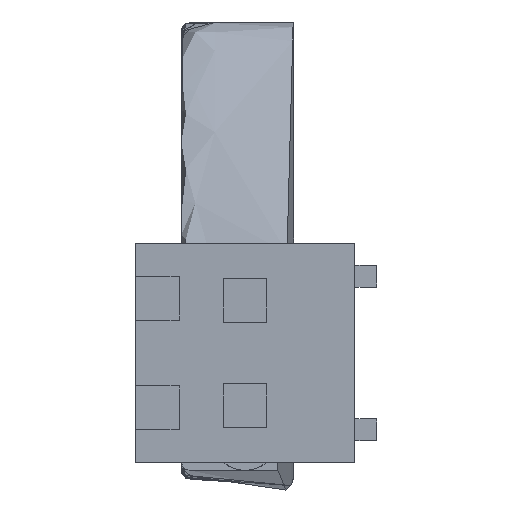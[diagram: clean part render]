
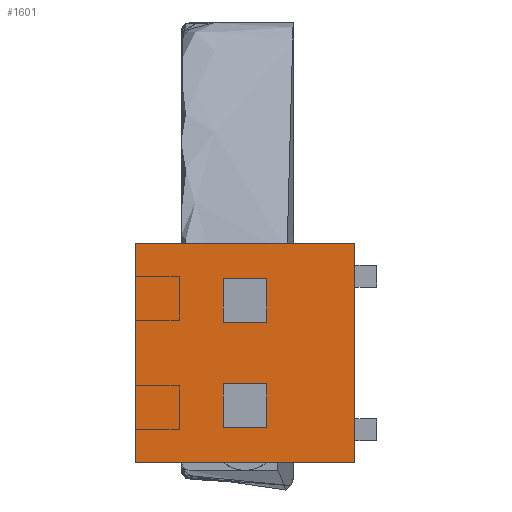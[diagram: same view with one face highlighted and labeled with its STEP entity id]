
A CAD part, left-side view. The second image highlights one B-rep face of the part: STEP entity #1601.
In plain terms, the highlighted planar face has unit normal (-1, 0, 0).
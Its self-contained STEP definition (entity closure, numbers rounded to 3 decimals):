
#485 = DIRECTION ( 'NONE',  ( 0., 0., -1. ) ) ;
#1033 = CARTESIAN_POINT ( 'NONE',  ( -1066., -1.8, -4.825 ) ) ;
#1272 = CARTESIAN_POINT ( 'NONE',  ( -1066., -1.8, -4.825 ) ) ;
#1372 = CARTESIAN_POINT ( 'NONE',  ( -1066., 0.2, -0.625 ) ) ;
#1531 = EDGE_CURVE ( 'NONE', #17127, #8118, #25463, .T. ) ;
#1601 = ADVANCED_FACE ( 'NONE', ( #33960, #8636, #22338 ), #30838, .F. ) ;
#2088 = VECTOR ( 'NONE', #31592, 1000. ) ;
#2146 = LINE ( 'NONE', #35978, #15717 ) ;
#3085 = CARTESIAN_POINT ( 'NONE',  ( -1066., 1.2, -1.625 ) ) ;
#3474 = VERTEX_POINT ( 'NONE', #21899 ) ;
#3511 = LINE ( 'NONE', #17356, #35892 ) ;
#4249 = CARTESIAN_POINT ( 'NONE',  ( -1066., 1.2, -4.025 ) ) ;
#4361 = VERTEX_POINT ( 'NONE', #34857 ) ;
#4724 = ORIENTED_EDGE ( 'NONE', *, *, #30315, .T. ) ;
#5079 = ORIENTED_EDGE ( 'NONE', *, *, #11011, .F. ) ;
#5679 = DIRECTION ( 'NONE',  ( 0., -1., 0. ) ) ;
#6122 = CARTESIAN_POINT ( 'NONE',  ( -1066., 3.2, 0.175 ) ) ;
#6267 = ORIENTED_EDGE ( 'NONE', *, *, #31434, .T. ) ;
#6574 = DIRECTION ( 'NONE',  ( 0., 0., 1. ) ) ;
#7009 = LINE ( 'NONE', #1272, #2088 ) ;
#7321 = LINE ( 'NONE', #35255, #35328 ) ;
#7374 = LINE ( 'NONE', #4249, #8988 ) ;
#8118 = VERTEX_POINT ( 'NONE', #16120 ) ;
#8636 = FACE_BOUND ( 'NONE', #25048, .T. ) ;
#8904 = EDGE_LOOP ( 'NONE', ( #6267, #4724, #29180, #28122 ) ) ;
#8988 = VECTOR ( 'NONE', #12557, 1000. ) ;
#9173 = CARTESIAN_POINT ( 'NONE',  ( -1066., 1.2, -3.025 ) ) ;
#9413 = DIRECTION ( 'NONE',  ( 0., -1., 0. ) ) ;
#9865 = EDGE_LOOP ( 'NONE', ( #5079, #10583, #31496, #22824 ) ) ;
#10220 = CARTESIAN_POINT ( 'NONE',  ( -1066., 0.2, -1.625 ) ) ;
#10583 = ORIENTED_EDGE ( 'NONE', *, *, #12697, .F. ) ;
#10886 = VERTEX_POINT ( 'NONE', #33527 ) ;
#11011 = EDGE_CURVE ( 'NONE', #34354, #4361, #7009, .T. ) ;
#11507 = CARTESIAN_POINT ( 'NONE',  ( -1066., -1.8, 0.175 ) ) ;
#11577 = LINE ( 'NONE', #28575, #33995 ) ;
#11624 = VERTEX_POINT ( 'NONE', #18797 ) ;
#12456 = ORIENTED_EDGE ( 'NONE', *, *, #17189, .T. ) ;
#12557 = DIRECTION ( 'NONE',  ( 0., 1., 0. ) ) ;
#12697 = EDGE_CURVE ( 'NONE', #21933, #34354, #29249, .T. ) ;
#12797 = VERTEX_POINT ( 'NONE', #6122 ) ;
#13283 = LINE ( 'NONE', #24942, #20297 ) ;
#13832 = DIRECTION ( 'NONE',  ( 0., 0., 1. ) ) ;
#13886 = AXIS2_PLACEMENT_3D ( 'NONE', #25828, #19921, #23049 ) ;
#14008 = DIRECTION ( 'NONE',  ( 0., 1., 0. ) ) ;
#14195 = CARTESIAN_POINT ( 'NONE',  ( -1066., 0.2, -4.025 ) ) ;
#14531 = EDGE_CURVE ( 'NONE', #27819, #11624, #7374, .T. ) ;
#15497 = VECTOR ( 'NONE', #5679, 1000. ) ;
#15717 = VECTOR ( 'NONE', #18966, 1000. ) ;
#16120 = CARTESIAN_POINT ( 'NONE',  ( -1066., 1.2, -1.625 ) ) ;
#16643 = EDGE_CURVE ( 'NONE', #12797, #21933, #2146, .T. ) ;
#17008 = VECTOR ( 'NONE', #23321, 1000. ) ;
#17046 = LINE ( 'NONE', #27962, #28165 ) ;
#17127 = VERTEX_POINT ( 'NONE', #10220 ) ;
#17189 = EDGE_CURVE ( 'NONE', #11624, #31792, #17046, .T. ) ;
#17308 = LINE ( 'NONE', #31023, #15497 ) ;
#17356 = CARTESIAN_POINT ( 'NONE',  ( -1066., 1.2, -3.025 ) ) ;
#18224 = ORIENTED_EDGE ( 'NONE', *, *, #27317, .T. ) ;
#18576 = EDGE_CURVE ( 'NONE', #32188, #17127, #32108, .T. ) ;
#18797 = CARTESIAN_POINT ( 'NONE',  ( -1066., 1.2, -4.025 ) ) ;
#18966 = DIRECTION ( 'NONE',  ( 0., -1., 0. ) ) ;
#19419 = VECTOR ( 'NONE', #32299, 1000. ) ;
#19921 = DIRECTION ( 'NONE',  ( 1., 0., 0. ) ) ;
#20297 = VECTOR ( 'NONE', #13832, 1000. ) ;
#21899 = CARTESIAN_POINT ( 'NONE',  ( -1066., 0.2, -3.025 ) ) ;
#21933 = VERTEX_POINT ( 'NONE', #26652 ) ;
#22338 = FACE_OUTER_BOUND ( 'NONE', #9865, .T. ) ;
#22824 = ORIENTED_EDGE ( 'NONE', *, *, #27912, .F. ) ;
#23049 = DIRECTION ( 'NONE',  ( 0., 0., 1. ) ) ;
#23321 = DIRECTION ( 'NONE',  ( 0., 0., -1. ) ) ;
#24942 = CARTESIAN_POINT ( 'NONE',  ( -1066., 1.2, -0.625 ) ) ;
#25013 = DIRECTION ( 'NONE',  ( 0., 0., 1. ) ) ;
#25048 = EDGE_LOOP ( 'NONE', ( #12456, #18224, #35458, #34439 ) ) ;
#25463 = LINE ( 'NONE', #3085, #26860 ) ;
#25828 = CARTESIAN_POINT ( 'NONE',  ( -1066., 0., 0. ) ) ;
#26652 = CARTESIAN_POINT ( 'NONE',  ( -1066., -1.8, 0.175 ) ) ;
#26860 = VECTOR ( 'NONE', #14008, 1000. ) ;
#27317 = EDGE_CURVE ( 'NONE', #31792, #3474, #3511, .T. ) ;
#27819 = VERTEX_POINT ( 'NONE', #14195 ) ;
#27912 = EDGE_CURVE ( 'NONE', #4361, #12797, #7321, .T. ) ;
#27962 = CARTESIAN_POINT ( 'NONE',  ( -1066., 1.2, -4.025 ) ) ;
#28122 = ORIENTED_EDGE ( 'NONE', *, *, #1531, .T. ) ;
#28165 = VECTOR ( 'NONE', #25013, 1000. ) ;
#28575 = CARTESIAN_POINT ( 'NONE',  ( -1066., 0.2, -4.025 ) ) ;
#29180 = ORIENTED_EDGE ( 'NONE', *, *, #18576, .T. ) ;
#29249 = LINE ( 'NONE', #11507, #17008 ) ;
#30315 = EDGE_CURVE ( 'NONE', #10886, #32188, #17308, .T. ) ;
#30838 = PLANE ( 'NONE',  #13886 ) ;
#31023 = CARTESIAN_POINT ( 'NONE',  ( -1066., 1.2, -0.625 ) ) ;
#31434 = EDGE_CURVE ( 'NONE', #8118, #10886, #13283, .T. ) ;
#31496 = ORIENTED_EDGE ( 'NONE', *, *, #16643, .F. ) ;
#31592 = DIRECTION ( 'NONE',  ( 0., 1., 0. ) ) ;
#31792 = VERTEX_POINT ( 'NONE', #9173 ) ;
#32108 = LINE ( 'NONE', #35061, #19419 ) ;
#32188 = VERTEX_POINT ( 'NONE', #1372 ) ;
#32299 = DIRECTION ( 'NONE',  ( 0., 0., -1. ) ) ;
#33527 = CARTESIAN_POINT ( 'NONE',  ( -1066., 1.2, -0.625 ) ) ;
#33960 = FACE_BOUND ( 'NONE', #8904, .T. ) ;
#33995 = VECTOR ( 'NONE', #485, 1000. ) ;
#34257 = EDGE_CURVE ( 'NONE', #3474, #27819, #11577, .T. ) ;
#34354 = VERTEX_POINT ( 'NONE', #1033 ) ;
#34439 = ORIENTED_EDGE ( 'NONE', *, *, #14531, .T. ) ;
#34857 = CARTESIAN_POINT ( 'NONE',  ( -1066., 3.2, -4.825 ) ) ;
#35061 = CARTESIAN_POINT ( 'NONE',  ( -1066., 0.2, -0.625 ) ) ;
#35255 = CARTESIAN_POINT ( 'NONE',  ( -1066., 3.2, 0.175 ) ) ;
#35328 = VECTOR ( 'NONE', #6574, 1000. ) ;
#35458 = ORIENTED_EDGE ( 'NONE', *, *, #34257, .T. ) ;
#35892 = VECTOR ( 'NONE', #9413, 1000. ) ;
#35978 = CARTESIAN_POINT ( 'NONE',  ( -1066., -1.8, 0.175 ) ) ;
